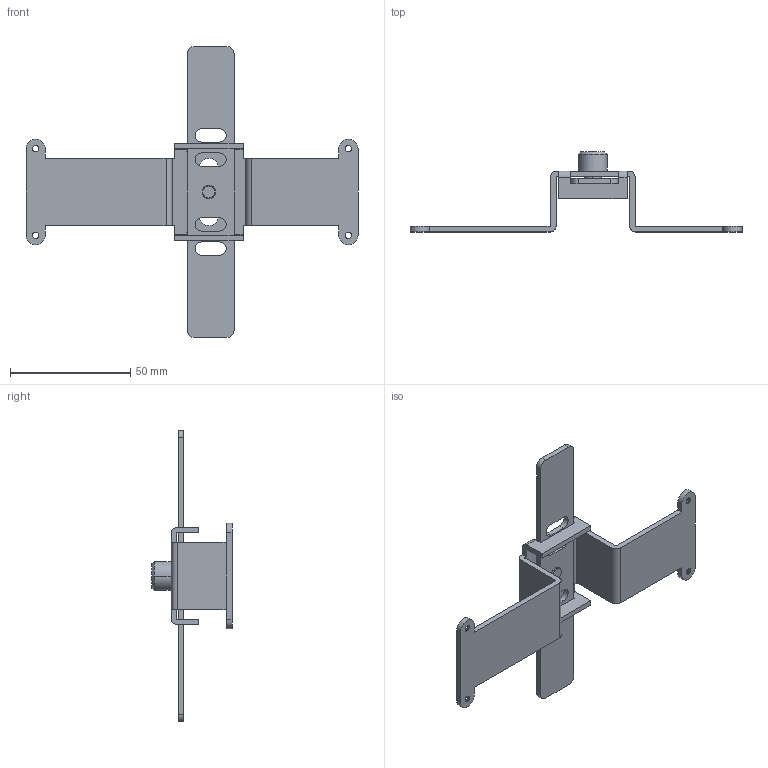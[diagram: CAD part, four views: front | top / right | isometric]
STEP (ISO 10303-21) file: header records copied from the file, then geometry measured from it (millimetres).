
FILE_DESCRIPTION(/* description */ (''),/* implementation_level */ '2;1');
FILE_NAME(/* name */ 'MIF12GM_3P_3D DATA.stp',/* time_stamp */ '2017-12-29T16:32:03+09:00',/* author */ (''),/* organization */ (''),/* preprocessor_version */ 'ST-DEVELOPER v15',/* originating_system */ 'SIEMENS PLM Software NX 9.0',/* authorisation */ '');
FILE_SCHEMA (('AP203_CONFIGURATION_CONTROLLED_3D_DESIGN_OF_MECHANICAL_PARTS_AND_ASSEMBLIES_MIM_LF { 1 0 10303 403 2 1 2}'));
Length unit declared in the file: millimetre
Products named in the file (5): GC2-PG-8006_R00; GC1-OT-8035_R00; 4ME-08569-1_R00; GC2-PG-8005_R00; GC2-AS-8024_R00
Assembly tree (4 placements, depth 2):
  GC2-AS-8024_R00
    GC2-PG-8005_R00
    4ME-08569-1_R00
    GC1-OT-8035_R00
    GC2-PG-8006_R00
Bounding box: 138 x 33.3 x 121 mm (x, y, z)
Volume: 18901.2 mm3; surface area: 19554.5 mm2
Topology: 4 solids, 4 shells, 132 faces, 364 edges, 238 vertices
Faces by surface type: plane 64, cylinder 58, cone 10
Full cylindrical faces by diameter (mm): 5.5 x4
Entity records: 4782 total; most frequent: DIRECTION 756, CARTESIAN_POINT 735, ORIENTED_EDGE 720, EDGE_CURVE 360, AXIS2_PLACEMENT_3D 259, VERTEX_POINT 238, LINE 238, VECTOR 238
